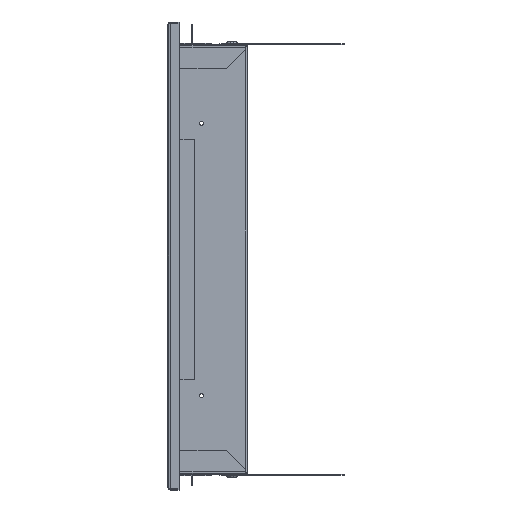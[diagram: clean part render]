
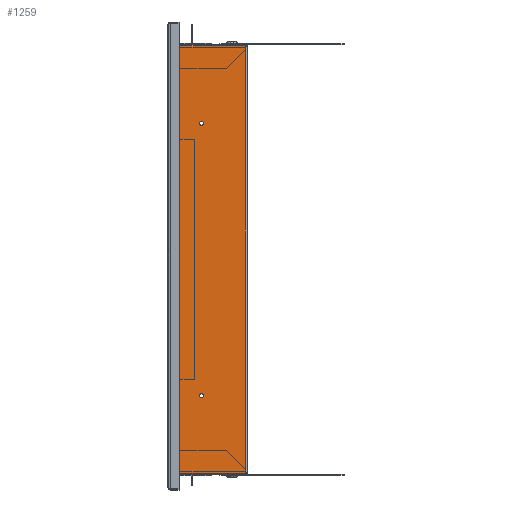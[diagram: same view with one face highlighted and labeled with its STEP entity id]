
A CAD part, left-side view. The second image highlights one B-rep face of the part: STEP entity #1259.
In plain terms, the highlighted planar face has unit normal (-1, 0, 0).
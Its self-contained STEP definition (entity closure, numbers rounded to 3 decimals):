
#1259=ADVANCED_FACE('',(#2512,#2514,#2516),#2518,.F.);
#2512=FACE_BOUND('',#2513,.T.);
#2513=EDGE_LOOP('',(#7092,#7093,#7094,#7095));
#2514=FACE_BOUND('',#2515,.T.);
#2515=EDGE_LOOP('',(#7096));
#2516=FACE_BOUND('',#2517,.T.);
#2517=EDGE_LOOP('',(#7097));
#2518=PLANE('',#2519);
#2519=AXIS2_PLACEMENT_3D('',#2520,#2521,#2522);
#2520=CARTESIAN_POINT('',(-285.9,-284.648,0.));
#2521=DIRECTION('',(1.,0.,0.));
#2522=DIRECTION('',(0.,-1.,0.));
#7092=ORIENTED_EDGE('',*,*,#9064,.T.);
#7093=ORIENTED_EDGE('',*,*,#9100,.T.);
#7094=ORIENTED_EDGE('',*,*,#9101,.F.);
#7095=ORIENTED_EDGE('',*,*,#9102,.T.);
#7096=ORIENTED_EDGE('',*,*,#9103,.T.);
#7097=ORIENTED_EDGE('',*,*,#9104,.T.);
#9064=EDGE_CURVE('',#10280,#10281,#10282,.T.);
#9100=EDGE_CURVE('',#10281,#10336,#10337,.T.);
#9101=EDGE_CURVE('',#10338,#10336,#10339,.T.);
#9102=EDGE_CURVE('',#10338,#10280,#10340,.T.);
#9103=EDGE_CURVE('',#10341,#10341,#10342,.T.);
#9104=EDGE_CURVE('',#10343,#10343,#10344,.T.);
#10280=VERTEX_POINT('',#12472);
#10281=VERTEX_POINT('',#12473);
#10282=LINE('',#12474,#12475);
#10336=VERTEX_POINT('',#12740);
#10337=LINE('',#12741,#12742);
#10338=VERTEX_POINT('',#12744);
#10339=LINE('',#12745,#12746);
#10340=LINE('',#12748,#12749);
#10341=VERTEX_POINT('',#12751);
#10342=CIRCLE('',#12752,1.25);
#10343=VERTEX_POINT('',#12756);
#10344=CIRCLE('',#12757,1.25);
#12472=CARTESIAN_POINT('',(-285.9,1.6,-133.329));
#12473=CARTESIAN_POINT('',(-285.9,1.6,133.329));
#12474=CARTESIAN_POINT('',(-285.9,1.6,-133.329));
#12475=VECTOR('',#12476,1.);
#12476=DIRECTION('',(0.,0.,1.));
#12740=CARTESIAN_POINT('',(-285.9,49.4,133.329));
#12741=CARTESIAN_POINT('',(-285.9,1.6,133.329));
#12742=VECTOR('',#12743,1.);
#12743=DIRECTION('',(0.,1.,0.));
#12744=CARTESIAN_POINT('',(-285.9,49.4,-133.329));
#12745=CARTESIAN_POINT('',(-285.9,49.4,-133.329));
#12746=VECTOR('',#12747,1.);
#12747=DIRECTION('',(0.,0.,1.));
#12748=CARTESIAN_POINT('',(-285.9,49.4,-133.329));
#12749=VECTOR('',#12750,1.);
#12750=DIRECTION('',(0.,-1.,0.));
#12751=CARTESIAN_POINT('',(-285.9,29.,-83.75));
#12752=AXIS2_PLACEMENT_3D('',#12753,#12754,#12755);
#12753=CARTESIAN_POINT('',(-285.9,29.,-85.));
#12754=DIRECTION('',(1.,0.,0.));
#12755=DIRECTION('',(-0.,0.,1.));
#12756=CARTESIAN_POINT('',(-285.9,29.,86.25));
#12757=AXIS2_PLACEMENT_3D('',#12758,#12759,#12760);
#12758=CARTESIAN_POINT('',(-285.9,29.,85.));
#12759=DIRECTION('',(1.,0.,0.));
#12760=DIRECTION('',(-0.,0.,1.));
